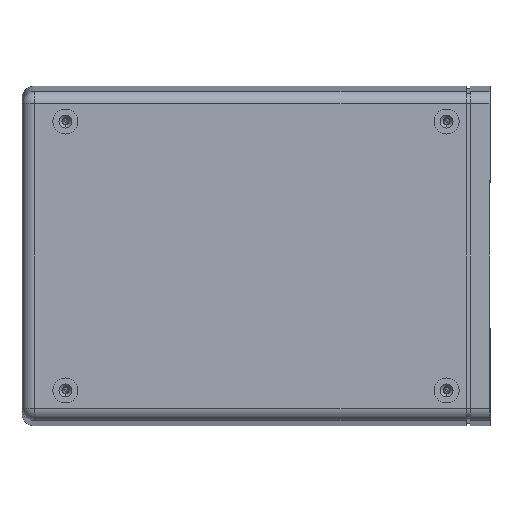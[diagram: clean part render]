
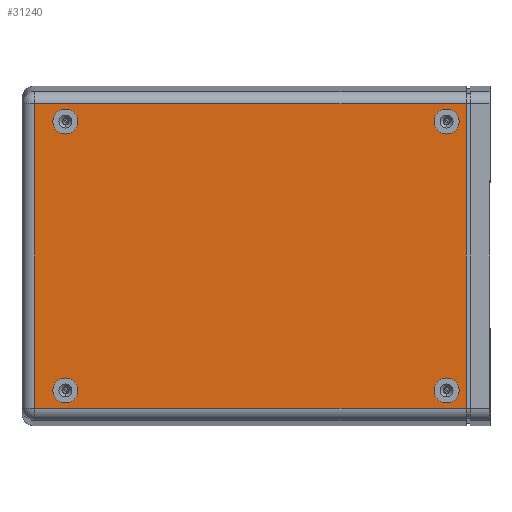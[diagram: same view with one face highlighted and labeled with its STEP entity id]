
A CAD part, front view. The second image highlights one B-rep face of the part: STEP entity #31240.
In plain terms, the highlighted planar face has unit normal (0, -1, 0).
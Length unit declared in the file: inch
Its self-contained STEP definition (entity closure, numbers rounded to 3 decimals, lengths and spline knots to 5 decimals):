
#225 = EDGE_CURVE ( 'NONE', #17602, #17766, #2112, .T. ) ;
#519 = ORIENTED_EDGE ( 'NONE', *, *, #225, .T. ) ;
#633 = EDGE_LOOP ( 'NONE', ( #7667, #519 ) ) ;
#1134 = CARTESIAN_POINT ( 'NONE',  ( -3.537, -1.8, 2.42837 ) ) ;
#1495 = CARTESIAN_POINT ( 'NONE',  ( 3.044, -1.8, 2.3475 ) ) ;
#1604 = DIRECTION ( 'NONE',  ( 0., 1., 0. ) ) ;
#1831 = VECTOR ( 'NONE', #16734, 39.37008 ) ;
#1881 = EDGE_CURVE ( 'NONE', #28477, #28588, #22066, .T. ) ;
#2112 = CIRCLE ( 'NONE', #10167, 0.2 ) ;
#2231 = ORIENTED_EDGE ( 'NONE', *, *, #11220, .F. ) ;
#2698 = LINE ( 'NONE', #24025, #28337 ) ;
#3033 = VECTOR ( 'NONE', #8021, 39.37008 ) ;
#3046 = EDGE_CURVE ( 'NONE', #7740, #6920, #7320, .T. ) ;
#3216 = EDGE_CURVE ( 'NONE', #11991, #12214, #17887, .T. ) ;
#4327 = DIRECTION ( 'NONE',  ( 0., 0., 1. ) ) ;
#4354 = EDGE_CURVE ( 'NONE', #8142, #5400, #2698, .T. ) ;
#4361 = DIRECTION ( 'NONE',  ( 0., 1., 0. ) ) ;
#4370 = CARTESIAN_POINT ( 'NONE',  ( 3.044, -1.8, -2.1475 ) ) ;
#4482 = FACE_BOUND ( 'NONE', #23852, .T. ) ;
#4551 = DIRECTION ( 'NONE',  ( 0., 0., 1. ) ) ;
#4681 = EDGE_CURVE ( 'NONE', #5400, #7740, #10515, .T. ) ;
#4816 = EDGE_CURVE ( 'NONE', #24967, #27888, #9302, .T. ) ;
#5130 = EDGE_CURVE ( 'NONE', #8142, #6920, #17365, .T. ) ;
#5333 = FACE_OUTER_BOUND ( 'NONE', #12113, .T. ) ;
#5370 = DIRECTION ( 'NONE',  ( 0., 0., -1. ) ) ;
#5379 = DIRECTION ( 'NONE',  ( 0., -1., 0. ) ) ;
#5400 = VERTEX_POINT ( 'NONE', #1134 ) ;
#5409 = CARTESIAN_POINT ( 'NONE',  ( 3.044, -1.8, 2.1475 ) ) ;
#5593 = CARTESIAN_POINT ( 'NONE',  ( 3.044, -1.8, 1.9475 ) ) ;
#6559 = CIRCLE ( 'NONE', #11061, 0.2 ) ;
#6920 = VERTEX_POINT ( 'NONE', #27350 ) ;
#7320 = LINE ( 'NONE', #24501, #26114 ) ;
#7480 = ORIENTED_EDGE ( 'NONE', *, *, #4681, .T. ) ;
#7667 = ORIENTED_EDGE ( 'NONE', *, *, #11698, .T. ) ;
#7740 = VERTEX_POINT ( 'NONE', #18991 ) ;
#7814 = CARTESIAN_POINT ( 'NONE',  ( 3.35685, -1.8, 2.42837 ) ) ;
#8021 = DIRECTION ( 'NONE',  ( 0., 0., -1. ) ) ;
#8142 = VERTEX_POINT ( 'NONE', #15786 ) ;
#8283 = ORIENTED_EDGE ( 'NONE', *, *, #1881, .T. ) ;
#8434 = DIRECTION ( 'NONE',  ( 0., 0., 1. ) ) ;
#8476 = DIRECTION ( 'NONE',  ( 0., 1., 0. ) ) ;
#8501 = CARTESIAN_POINT ( 'NONE',  ( -3.044, -1.8, -2.1475 ) ) ;
#9302 = CIRCLE ( 'NONE', #25218, 0.2 ) ;
#10167 = AXIS2_PLACEMENT_3D ( 'NONE', #4370, #4361, #4327 ) ;
#10395 = DIRECTION ( 'NONE',  ( 0., 0., 1. ) ) ;
#10402 = DIRECTION ( 'NONE',  ( 0., 1., 0. ) ) ;
#10428 = CARTESIAN_POINT ( 'NONE',  ( 3.044, -1.8, -2.1475 ) ) ;
#10515 = LINE ( 'NONE', #16842, #1831 ) ;
#10707 = CARTESIAN_POINT ( 'NONE',  ( -3.044, -1.8, 1.9475 ) ) ;
#11061 = AXIS2_PLACEMENT_3D ( 'NONE', #19115, #19080, #19054 ) ;
#11220 = EDGE_CURVE ( 'NONE', #27888, #24967, #6559, .T. ) ;
#11387 = FACE_BOUND ( 'NONE', #23450, .T. ) ;
#11506 = EDGE_CURVE ( 'NONE', #28588, #28477, #31283, .T. ) ;
#11698 = EDGE_CURVE ( 'NONE', #17766, #17602, #31635, .T. ) ;
#11991 = VERTEX_POINT ( 'NONE', #5593 ) ;
#11995 = EDGE_CURVE ( 'NONE', #12214, #11991, #19777, .T. ) ;
#12113 = EDGE_LOOP ( 'NONE', ( #18669, #17314, #17771, #7480 ) ) ;
#12214 = VERTEX_POINT ( 'NONE', #1495 ) ;
#13536 = ORIENTED_EDGE ( 'NONE', *, *, #11995, .F. ) ;
#13789 = DIRECTION ( 'NONE',  ( 0., 0., -1. ) ) ;
#13816 = DIRECTION ( 'NONE',  ( 0., -1., 0. ) ) ;
#13823 = CARTESIAN_POINT ( 'NONE',  ( -3.044, -1.8, 2.1475 ) ) ;
#14436 = DIRECTION ( 'NONE',  ( 0., 0., 1. ) ) ;
#14447 = DIRECTION ( 'NONE',  ( 0., 1., 0. ) ) ;
#14474 = CARTESIAN_POINT ( 'NONE',  ( -3.044, -1.8, -2.1475 ) ) ;
#14688 = AXIS2_PLACEMENT_3D ( 'NONE', #8501, #8476, #8434 ) ;
#15363 = CARTESIAN_POINT ( 'NONE',  ( -3.044, -1.8, 2.3475 ) ) ;
#15786 = CARTESIAN_POINT ( 'NONE',  ( 3.35685, -1.8, 2.42837 ) ) ;
#16734 = DIRECTION ( 'NONE',  ( 0., 0., -1. ) ) ;
#16842 = CARTESIAN_POINT ( 'NONE',  ( -3.537, -1.8, -2.61817 ) ) ;
#17135 = PLANE ( 'NONE',  #24615 ) ;
#17314 = ORIENTED_EDGE ( 'NONE', *, *, #5130, .F. ) ;
#17365 = LINE ( 'NONE', #7814, #3033 ) ;
#17602 = VERTEX_POINT ( 'NONE', #27209 ) ;
#17766 = VERTEX_POINT ( 'NONE', #25038 ) ;
#17771 = ORIENTED_EDGE ( 'NONE', *, *, #4354, .T. ) ;
#17887 = CIRCLE ( 'NONE', #27202, 0.2 ) ;
#18098 = ORIENTED_EDGE ( 'NONE', *, *, #3216, .F. ) ;
#18669 = ORIENTED_EDGE ( 'NONE', *, *, #3046, .T. ) ;
#18991 = CARTESIAN_POINT ( 'NONE',  ( -3.537, -1.8, -2.42837 ) ) ;
#19054 = DIRECTION ( 'NONE',  ( 0., 0., -1. ) ) ;
#19080 = DIRECTION ( 'NONE',  ( 0., -1., 0. ) ) ;
#19115 = CARTESIAN_POINT ( 'NONE',  ( -3.044, -1.8, 2.1475 ) ) ;
#19200 = AXIS2_PLACEMENT_3D ( 'NONE', #5409, #5379, #5370 ) ;
#19564 = CARTESIAN_POINT ( 'NONE',  ( -3.737, -1.8, 2.7125 ) ) ;
#19777 = CIRCLE ( 'NONE', #19200, 0.2 ) ;
#20865 = DIRECTION ( 'NONE',  ( 0., 0., -1. ) ) ;
#20892 = DIRECTION ( 'NONE',  ( 0., -1., 0. ) ) ;
#20940 = CARTESIAN_POINT ( 'NONE',  ( 3.044, -1.8, 2.1475 ) ) ;
#21457 = AXIS2_PLACEMENT_3D ( 'NONE', #10428, #10402, #10395 ) ;
#22059 = CARTESIAN_POINT ( 'NONE',  ( -3.044, -1.8, -1.9475 ) ) ;
#22066 = CIRCLE ( 'NONE', #14688, 0.2 ) ;
#23450 = EDGE_LOOP ( 'NONE', ( #32110, #2231 ) ) ;
#23560 = FACE_BOUND ( 'NONE', #633, .T. ) ;
#23852 = EDGE_LOOP ( 'NONE', ( #18098, #13536 ) ) ;
#23879 = DIRECTION ( 'NONE',  ( -1., 0., 0. ) ) ;
#24025 = CARTESIAN_POINT ( 'NONE',  ( -3.737, -1.8, 2.42837 ) ) ;
#24501 = CARTESIAN_POINT ( 'NONE',  ( 3.737, -1.8, -2.42837 ) ) ;
#24615 = AXIS2_PLACEMENT_3D ( 'NONE', #19564, #1604, #4551 ) ;
#24622 = EDGE_LOOP ( 'NONE', ( #27343, #8283 ) ) ;
#24730 = CARTESIAN_POINT ( 'NONE',  ( -3.044, -1.8, -2.3475 ) ) ;
#24913 = DIRECTION ( 'NONE',  ( 1., 0., 0. ) ) ;
#24967 = VERTEX_POINT ( 'NONE', #10707 ) ;
#25038 = CARTESIAN_POINT ( 'NONE',  ( 3.044, -1.8, -2.3475 ) ) ;
#25218 = AXIS2_PLACEMENT_3D ( 'NONE', #13823, #13816, #13789 ) ;
#26114 = VECTOR ( 'NONE', #24913, 39.37008 ) ;
#27202 = AXIS2_PLACEMENT_3D ( 'NONE', #20940, #20892, #20865 ) ;
#27209 = CARTESIAN_POINT ( 'NONE',  ( 3.044, -1.8, -1.9475 ) ) ;
#27343 = ORIENTED_EDGE ( 'NONE', *, *, #11506, .T. ) ;
#27350 = CARTESIAN_POINT ( 'NONE',  ( 3.35685, -1.8, -2.42837 ) ) ;
#27888 = VERTEX_POINT ( 'NONE', #15363 ) ;
#28337 = VECTOR ( 'NONE', #23879, 39.37008 ) ;
#28477 = VERTEX_POINT ( 'NONE', #22059 ) ;
#28588 = VERTEX_POINT ( 'NONE', #24730 ) ;
#29883 = FACE_BOUND ( 'NONE', #24622, .T. ) ;
#31240 = ADVANCED_FACE ( 'NONE', ( #5333, #11387, #29883, #4482, #23560 ), #17135, .F. ) ;
#31283 = CIRCLE ( 'NONE', #31561, 0.2 ) ;
#31561 = AXIS2_PLACEMENT_3D ( 'NONE', #14474, #14447, #14436 ) ;
#31635 = CIRCLE ( 'NONE', #21457, 0.2 ) ;
#32110 = ORIENTED_EDGE ( 'NONE', *, *, #4816, .F. ) ;
